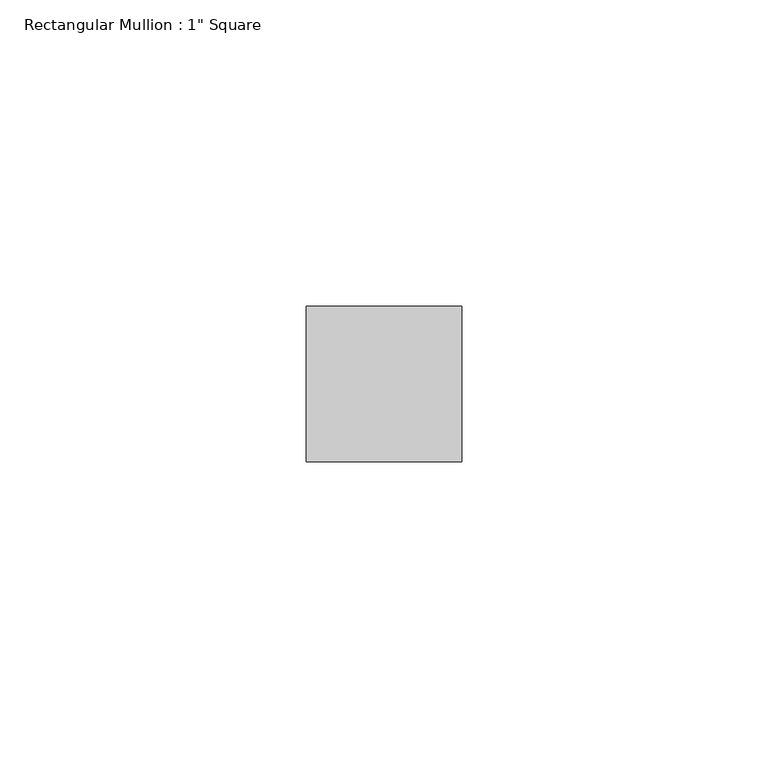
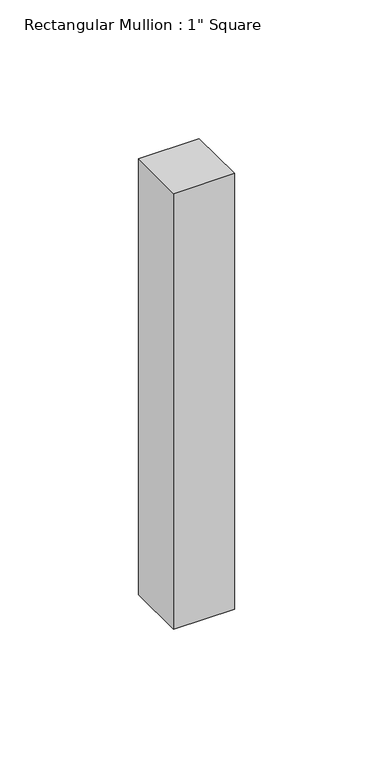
"""IFC4 building model written with IfcOpenShell, lengths in millimetres: member geometry."""

from ifc_helpers import new_model, si_unit, frame, origin, place, context, project, spatial, polyline, outline, extrude, source, transform, mapped, element, save


def member_baf210a9(model_context):
    return source(origin(), model_context, "Body", "SweptSolid", [
        extrude(outline(polyline([(0.0, 12.7), (0.0, -12.7), (-25.4, -12.7), (-25.4, 12.7), (0.0, 12.7)])), frame((0.0, 0.0, -192.0), z_axis=(0.0, 0.0, 1.0), x_axis=(1.0, 0.0, 0.0)), (0.0, 0.0, 1.0), 192.0),
    ])


if __name__ == "__main__":
    model = new_model("IFC4")
    model_context = context("Model", 3, world=origin())
    ifc_project = project(units=[si_unit("LENGTHUNIT", "METRE", prefix="MILLI")], contexts=[model_context])
    site = spatial("IfcSite", under=ifc_project)
    building = spatial("IfcBuilding", under=site)
    placement = place(None, origin())
    member_shape = member_baf210a9(model_context)
    element("IfcMember", 1, ObjectType="Rectangular Mullion : 1\" Square", at=placement, inside=building, context=model_context, shape_type="MappedRepresentation", body=[
        mapped(member_shape, transform((0.0, 0.0, 0.0), x_axis=(1.0, 0.0, 0.0), y_axis=(0.0, 1.0, 0.0), z_axis=(0.0, 0.0, 1.0))),
    ])
    save(model, "model.ifc")
